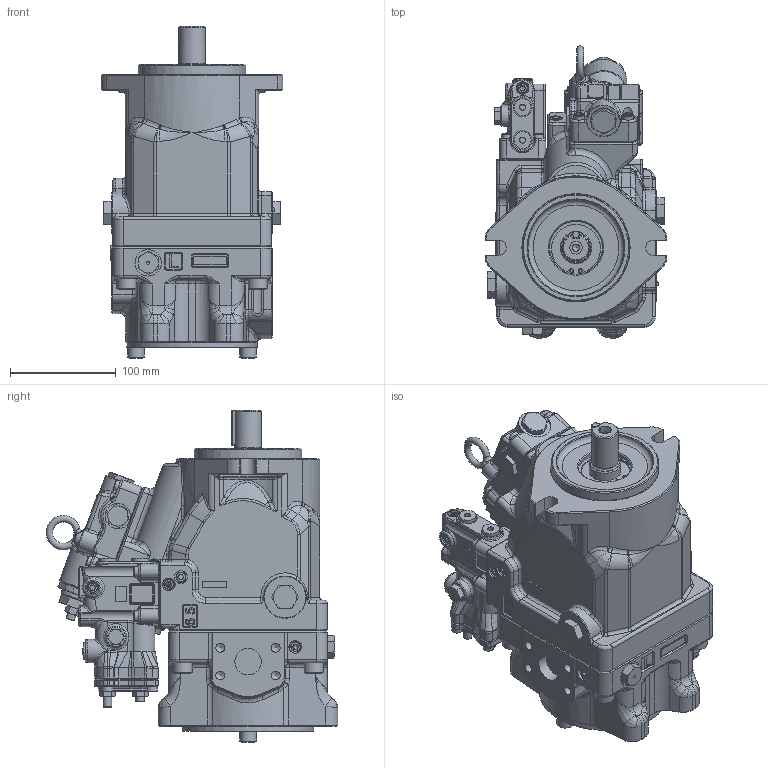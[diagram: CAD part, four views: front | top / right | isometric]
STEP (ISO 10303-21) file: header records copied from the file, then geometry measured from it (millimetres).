
FILE_DESCRIPTION(/* description */ (''),/* implementation_level */ '2;1');
FILE_NAME(/* name */ 'K3VLS65-1NRK2H-L1AAM2.stp',/* time_stamp */ '2025-09-24T15:29:53+01:00',/* author */ ('jhatcher'),/* organization */ (''),/* preprocessor_version */ 'ST-DEVELOPER v20',/* originating_system */ 'Autodesk Inventor 2024',/* authorisation */ '');
FILE_SCHEMA (('AUTOMOTIVE_DESIGN { 1 0 10303 214 3 1 1 }'));
Products named in the file (1): K3VLS65-1NRK2H-L1AAM2
Bounding box: 172 x 276.03 x 314 mm (x, y, z)
Volume: 5658896.3 mm3; surface area: 287663.7 mm2
Topology: 1 solids, 1 shells, 3306 faces, 8265 edges, 5013 vertices
Faces by surface type: plane 1405, cylinder 788, bspline 542, cone 368, torus 184, sphere 19
Full cylindrical faces by diameter (mm): 2.5 x2, 4 x3, 6.647 x1, 8 x3, 8.376 x8, 9.4 x9, 10 x12, 10.106 x4, 11 x12, 12 x9, 16 x5, 18 x8, 20 x5, 22 x1, 24 x2, 25 x2, 25.4 x1, 30 x1, 33 x1, 45 x1, 50 x2, 53 x1, 101.6 x1, 124 x1
Entity records: 115634 total; most frequent: CARTESIAN_POINT 40272, ORIENTED_EDGE 16288, DIRECTION 14839, EDGE_CURVE 8144, AXIS2_PLACEMENT_3D 5389, VERTEX_POINT 5013, LINE 4061, VECTOR 4061
